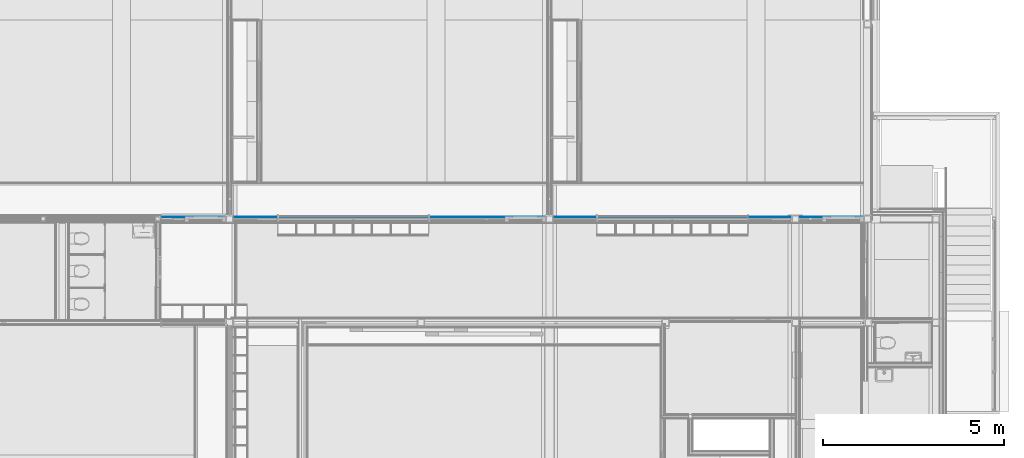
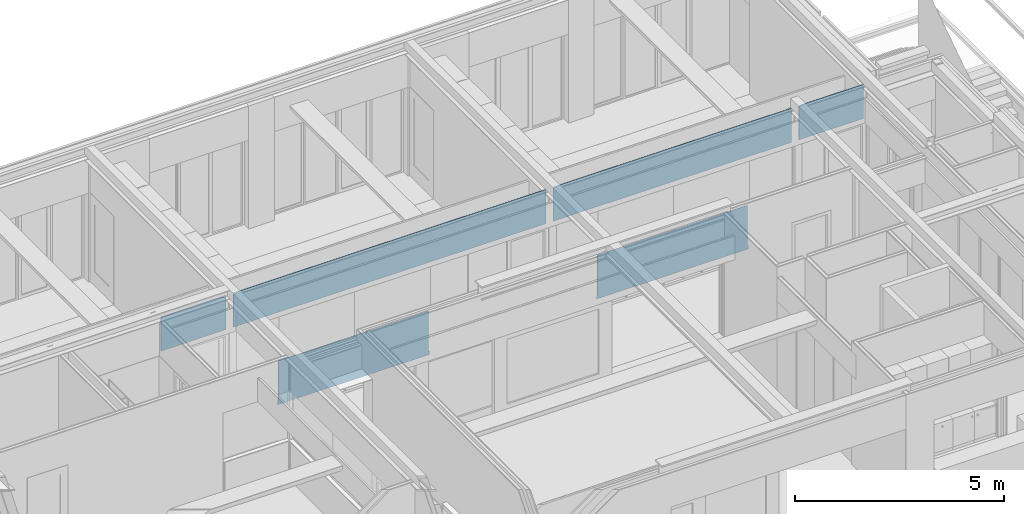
# One storey, part 31 of 165: 1 building element part, 14 openings, 1 element without a shape of its own.
"""IFC2X3 building model written with IfcOpenShell, lengths in millimetres."""

from ifc_helpers import new_model, entity, si_unit, converted_unit, derived_unit, money_unit, direction, frame, origin_with_axes, place, context, subcontext, project, spatial, faceted_brep, material, type_object, element, aggregate, save


model = new_model("IFC2X3")

# Units and contexts
model_context = context("Model", 3, precision=0.01, world=origin_with_axes(), true_north=direction((0.0, 1.0)))
body_context = subcontext(model_context, "Body", "Model", "MODEL_VIEW")
ifc_project = project(units=[si_unit("LENGTHUNIT", "METRE", prefix="MILLI"), si_unit("AREAUNIT", "SQUARE_METRE"), si_unit("VOLUMEUNIT", "CUBIC_METRE"), converted_unit("PLANEANGLEUNIT", "DEGREE", entity("IfcPlaneAngleMeasure", 0.0174532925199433), si_unit("PLANEANGLEUNIT", "RADIAN"), dimensions=[0, 0, 0, 0, 0, 0, 0]), money_unit("EUR"), converted_unit("TIMEUNIT", "Year", entity("IfcTimeMeasure", 31556926.0), si_unit("TIMEUNIT", "SECOND"), dimensions=[0, 0, 1, 0, 0, 0, 0]), si_unit("MASSUNIT", "GRAM", prefix="KILO"), si_unit("THERMODYNAMICTEMPERATUREUNIT", "DEGREE_CELSIUS"), si_unit("LUMINOUSINTENSITYUNIT", "LUMEN"), si_unit("ENERGYUNIT", "JOULE", prefix="MEGA"), derived_unit("THERMALCONDUCTANCEUNIT", [(si_unit("POWERUNIT", "WATT"), 1), (si_unit("LENGTHUNIT", "METRE"), -1), (si_unit("THERMODYNAMICTEMPERATUREUNIT", "KELVIN"), -1)]), derived_unit("SPECIFICHEATCAPACITYUNIT", [(si_unit("ENERGYUNIT", "JOULE"), 1), (si_unit("MASSUNIT", "GRAM", prefix="KILO"), -1), (si_unit("THERMODYNAMICTEMPERATUREUNIT", "KELVIN"), -1)]), derived_unit("MASSDENSITYUNIT", [(si_unit("MASSUNIT", "GRAM", prefix="KILO"), 1), (si_unit("VOLUMEUNIT", "CUBIC_METRE"), -1)])], contexts=[model_context])

# Site, building, storey
site_placement = place(None, origin_with_axes())
site = spatial("IfcSite", under=ifc_project, at=site_placement, Name="Site", CompositionType="ELEMENT")
building_placement = place(site_placement, origin_with_axes())
building = spatial("IfcBuilding", under=site, at=building_placement, Name="Naam gebouw", CompositionType="ELEMENT")
storey_placement = place(building_placement, origin_with_axes())
storey = spatial("IfcBuildingStorey", under=building, at=storey_placement, Name="Begane grond", CompositionType="ELEMENT", Elevation=0.0)

# Proxy, openings, building element part
building_element_proxy_type = type_object("IfcBuildingElementProxyType", Name="22 Metal stud 125 gips 125", PredefinedType="NOTDEFINED")
proxy_placement = place(storey_placement, frame((6940.0, 22324.99474661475, -100.0), z_axis=(0.0, 0.0, 1.0), x_axis=(0.9999999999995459, -9.530261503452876e-07, 0.0)))
proxy = element("IfcBuildingElementProxy", 1, at=proxy_placement, inside=storey, type_object=building_element_proxy_type, Name="_Wand-x")
opening_1_placement = place(proxy_placement, frame((11459.99904000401, 0.0, 100.0), z_axis=(0.0, 0.0, 1.0), x_axis=(1.0, 0.0, 0.0)))
element("IfcOpeningElement", 2, at=opening_1_placement, cuts=proxy, Name="_B.01", context=body_context, shape_type="Brep", body=[
    faceted_brep([(600.0000000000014, -12.50000000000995, -100.0000000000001), (600.0000000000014, -12.50000000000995, 2600.0), (600.0000000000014, -63.51853254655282, 2600.0), (600.0000000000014, -63.51853254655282, -100.0000000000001), (600.0000000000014, 63.51853254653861, -100.0000000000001), (600.0000000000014, 63.51853254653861, 2600.0), (-599.9999999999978, -12.50000000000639, 2600.0), (-599.9999999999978, -63.51853254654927, 2600.0), (-600.0000000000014, 63.51853254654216, 2600.0), (-599.9999999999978, -63.51853254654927, -100.0000000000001), (-599.9999999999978, -12.50000000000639, -100.0000000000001), (-600.0000000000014, 63.51853254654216, -100.0000000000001)], [[[0, 1, 2, 3]], [[1, 0, 4, 5]], [[6, 7, 2, 1, 5, 8]], [[7, 9, 3, 2]], [[0, 3, 9, 10, 11, 4]], [[5, 4, 11, 8]], [[6, 10, 9, 7]], [[10, 6, 8, 11]]]),
])
opening_2_placement = place(proxy_placement, frame((7954.999824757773, 0.0, 100.0), z_axis=(0.0, 0.0, 1.0), x_axis=(1.0, 0.0, 0.0)))
element("IfcOpeningElement", 3, at=opening_2_placement, cuts=proxy, Name="_B.06", context=body_context, shape_type="Brep", body=[
    faceted_brep([(524.9998247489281, -12.50000000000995, -100.0000000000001), (524.9998247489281, -12.50000000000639, 2600.0), (524.9998247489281, -63.51853254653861, 2600.0), (524.9998247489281, -63.51853254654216, -100.0000000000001), (524.9998247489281, 63.5185325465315, -100.0000000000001), (524.9998247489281, 63.51853254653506, 2600.0), (-524.9998247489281, -12.50000000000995, 2600.0), (-524.9998247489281, -63.51853254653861, 2600.0), (-524.9998247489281, 63.51853254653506, 2600.0), (-524.9998247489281, -63.51853254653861, -100.0000000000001), (-524.9998247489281, -12.50000000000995, -100.0000000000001), (-524.9998247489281, 63.51853254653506, -100.0000000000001)], [[[0, 1, 2, 3]], [[1, 0, 4, 5]], [[6, 7, 2, 1, 5, 8]], [[7, 9, 3, 2]], [[0, 3, 9, 10, 11, 4]], [[5, 4, 11, 8]], [[6, 10, 9, 7]], [[10, 6, 8, 11]]]),
])
opening_3_placement = place(proxy_placement, frame((16859.99904000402, 0.0, 100.0), z_axis=(0.0, 0.0, 1.0), x_axis=(1.0, 0.0, 0.0)))
element("IfcOpeningElement", 4, at=opening_3_placement, cuts=proxy, Name="_B.01", context=body_context, shape_type="Brep", body=[
    faceted_brep([(599.9999999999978, -12.50000000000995, -100.0000000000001), (599.9999999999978, -12.50000000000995, 2600.0), (599.9999999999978, -63.51853254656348, 2600.0), (599.9999999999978, -63.51853254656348, -100.0000000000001), (599.9999999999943, 63.5185325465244, -100.0000000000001), (599.9999999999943, 63.5185325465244, 2600.0), (-600.0000000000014, -12.50000000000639, 2600.0), (-600.0000000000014, -63.51853254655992, 2600.0), (-600.0000000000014, 63.51853254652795, 2600.0), (-600.0000000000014, -63.51853254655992, -100.0000000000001), (-600.0000000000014, -12.50000000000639, -100.0000000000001), (-600.0000000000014, 63.51853254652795, -100.0000000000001)], [[[0, 1, 2, 3]], [[1, 0, 4, 5]], [[6, 7, 2, 1, 5, 8]], [[7, 9, 3, 2]], [[0, 3, 9, 10, 11, 4]], [[5, 4, 11, 8]], [[6, 10, 9, 7]], [[10, 6, 8, 11]]]),
])
opening_4_placement = place(proxy_placement, frame((13109.999040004, 0.0, 1300.0), z_axis=(0.0, 0.0, 1.0), x_axis=(1.0, 0.0, 0.0)))
element("IfcOpeningElement", 5, at=opening_4_placement, cuts=proxy, Name="_C.01", context=body_context, shape_type="Brep", body=[
    faceted_brep([(1049.999999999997, -12.50000000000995, 0.0), (1049.999999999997, -12.50000000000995, 1400.0), (1049.999999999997, -63.51853254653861, 1400.0), (1049.999999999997, -63.51853254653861, 0.0), (1049.999999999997, 63.51853254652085, 0.0), (1049.999999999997, 63.51853254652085, 1400.0), (-1049.99999999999, -12.50000000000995, 1400.0), (-1049.999999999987, -63.51853254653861, 1400.0), (-1049.99999999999, 63.5185325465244, 1400.0), (-1049.999999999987, -63.51853254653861, 0.0), (-1049.99999999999, -12.50000000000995, 0.0), (-1049.99999999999, 63.5185325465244, 0.0)], [[[0, 1, 2, 3]], [[1, 0, 4, 5]], [[6, 7, 2, 1, 5, 8]], [[7, 9, 3, 2]], [[0, 3, 9, 10, 11, 4]], [[5, 4, 11, 8]], [[6, 10, 9, 7]], [[10, 6, 8, 11]]]),
])
opening_5_placement = place(proxy_placement, frame((15209.99904000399, 0.0, 1300.000000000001), z_axis=(0.0, 0.0, 1.0), x_axis=(1.0, 0.0, 0.0)))
element("IfcOpeningElement", 6, at=opening_5_placement, cuts=proxy, Name="_C.01", context=body_context, shape_type="Brep", body=[
    faceted_brep([(1050.000000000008, -12.5000000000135, 0.0), (1050.000000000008, -12.5000000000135, 1400.0), (1050.000000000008, -63.51853254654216, 1400.0), (1050.000000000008, -63.51853254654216, 0.0), (1050.000000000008, 63.51853254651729, 0.0), (1050.000000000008, 63.51853254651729, 1400.0), (-1050.000000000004, -12.50000000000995, 1400.0), (-1050.000000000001, -63.51853254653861, 1400.0), (-1050.000000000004, 63.51853254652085, 1400.0), (-1050.000000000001, -63.51853254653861, 0.0), (-1050.000000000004, -12.50000000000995, 0.0), (-1050.000000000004, 63.51853254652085, 0.0)], [[[0, 1, 2, 3]], [[1, 0, 4, 5]], [[6, 7, 2, 1, 5, 8]], [[7, 9, 3, 2]], [[0, 3, 9, 10, 11, 4]], [[5, 4, 11, 8]], [[6, 10, 9, 7]], [[10, 6, 8, 11]]]),
])
opening_6_placement = place(proxy_placement, frame((2620.000000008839, 0.0, 100.0), z_axis=(0.0, 0.0, 1.0), x_axis=(1.0, 0.0, 0.0)))
element("IfcOpeningElement", 7, at=opening_6_placement, cuts=proxy, Name="_B.03", context=body_context, shape_type="Brep", body=[
    faceted_brep([(610.0000000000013, -12.50000000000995, -100.0000000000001), (610.0000000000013, -12.50000000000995, 2600.0), (610.0000000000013, -63.51853254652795, 2600.0), (610.0000000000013, -63.51853254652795, -100.0000000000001), (610.0000000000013, 63.51853254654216, -100.0000000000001), (610.0000000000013, 63.51853254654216, 2600.0), (-610.0000000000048, -12.50000000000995, 2600.0), (-610.0000000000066, -63.51853254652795, 2600.0), (-610.0000000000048, 63.51853254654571, 2600.0), (-610.0000000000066, -63.51853254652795, -100.0000000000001), (-610.0000000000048, -12.50000000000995, -100.0000000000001), (-610.0000000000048, 63.51853254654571, -100.0000000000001)], [[[0, 1, 2, 3]], [[1, 0, 4, 5]], [[6, 7, 2, 1, 5, 8]], [[7, 9, 3, 2]], [[0, 3, 9, 10, 11, 4]], [[5, 4, 11, 8]], [[6, 10, 9, 7]], [[10, 6, 8, 11]]]),
])
opening_7_placement = place(proxy_placement, frame((4280.000000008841, 0.0, 1300.0), z_axis=(0.0, 0.0, 1.0), x_axis=(1.0, 0.0, 0.0)))
element("IfcOpeningElement", 8, at=opening_7_placement, cuts=proxy, Name="_C.01", context=body_context, shape_type="Brep", body=[
    faceted_brep([(1049.999999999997, -12.50000000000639, 0.0), (1049.999999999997, -12.50000000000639, 1400.0), (1049.999999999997, -63.5185325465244, 1400.0), (1049.999999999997, -63.5185325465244, 0.0), (1049.999999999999, 63.51853254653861, 0.0), (1049.999999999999, 63.51853254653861, 1400.0), (-1049.999999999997, -12.50000000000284, 1400.0), (-1049.999999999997, -63.51853254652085, 1400.0), (-1049.999999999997, 63.51853254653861, 1400.0), (-1049.999999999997, -63.51853254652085, 0.0), (-1049.999999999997, -12.50000000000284, 0.0), (-1049.999999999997, 63.51853254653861, 0.0)], [[[0, 1, 2, 3]], [[1, 0, 4, 5]], [[6, 7, 2, 1, 5, 8]], [[7, 9, 3, 2]], [[0, 3, 9, 10, 11, 4]], [[5, 4, 11, 8]], [[6, 10, 9, 7]], [[10, 6, 8, 11]]]),
])
opening_8_placement = place(proxy_placement, frame((9004.999474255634, 0.0, 100.0), z_axis=(0.0, 0.0, 1.0), x_axis=(1.0, 0.0, 0.0)))
element("IfcOpeningElement", 9, at=opening_8_placement, cuts=proxy, Name="_B.06", context=body_context, shape_type="Brep", body=[
    faceted_brep([(524.9998247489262, -12.50000000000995, -100.0000000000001), (524.9998247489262, -12.50000000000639, 2600.0), (524.9998247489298, -63.51853254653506, 2600.0), (524.9998247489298, -63.51853254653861, -100.0000000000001), (524.9998247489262, 63.51853254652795, -100.0000000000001), (524.9998247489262, 63.5185325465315, 2600.0), (-524.9998247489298, -12.50000000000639, 2600.0), (-524.9998247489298, -63.51853254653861, 2600.0), (-524.9998247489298, 63.5185325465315, 2600.0), (-524.9998247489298, -63.51853254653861, -100.0000000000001), (-524.9998247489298, -12.50000000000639, -100.0000000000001), (-524.9998247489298, 63.5185325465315, -100.0000000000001)], [[[0, 1, 2, 3]], [[1, 0, 4, 5]], [[6, 7, 2, 1, 5, 8]], [[7, 9, 3, 2]], [[0, 3, 9, 10, 11, 4]], [[5, 4, 11, 8]], [[6, 10, 9, 7]], [[10, 6, 8, 11]]]),
])
opening_9_placement = place(proxy_placement, frame((17987.99955956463, 0.0, 100.0), z_axis=(0.0, 0.0, 1.0), x_axis=(1.0, 0.0, 0.0)))
element("IfcOpeningElement", 10, at=opening_9_placement, cuts=proxy, Name="_B.09", context=body_context, shape_type="Brep", body=[
    faceted_brep([(-328.0004950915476, 12.49999999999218, -100.0000000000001), (-328.0004950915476, 12.49999999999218, 2600.0), (-328.0004950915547, 63.51853254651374, 2600.0), (-328.0004950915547, 63.51853254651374, -100.0000000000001), (-328.0004950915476, -63.51853254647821, -100.0000000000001), (-328.0004950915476, -63.51853254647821, 2600.0), (328.0004950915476, 12.49999999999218, 2600.0), (328.0004950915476, 63.51853254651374, 2600.0), (328.0004950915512, -63.51853254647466, 2600.0), (328.0004950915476, 63.51853254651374, -100.0000000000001), (328.0004950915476, 12.49999999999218, -100.0000000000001), (328.0004950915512, -63.51853254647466, -100.0000000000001)], [[[0, 1, 2, 3]], [[1, 0, 4, 5]], [[6, 7, 2, 1, 5, 8]], [[7, 9, 3, 2]], [[0, 3, 9, 10, 11, 4]], [[5, 4, 11, 8]], [[6, 10, 9, 7]], [[10, 6, 8, 11]]]),
])
opening_10_placement = place(proxy_placement, frame((18881.00000000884, 0.0, 100.0), z_axis=(0.0, 0.0, 1.0), x_axis=(1.0, 0.0, 0.0)))
element("IfcOpeningElement", 11, at=opening_10_placement, cuts=proxy, Name="_01.01", context=body_context, shape_type="Brep", body=[
    faceted_brep([(-564.9999999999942, -63.51853254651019, 2600.0), (-564.9999999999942, -63.51853254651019, -100.0000000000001), (565.0000000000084, -63.51853254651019, -100.0000000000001), (565.0000000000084, -63.51853254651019, 2600.0), (-564.9999999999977, 63.51853254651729, 2600.0), (-564.9999999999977, 63.51853254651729, -100.0000000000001), (565.0000000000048, 63.51853254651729, -100.0000000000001), (565.0000000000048, 63.51853254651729, 2600.0)], [[[0, 1, 2, 3]], [[4, 5, 1, 0]], [[5, 6, 2, 1]], [[6, 7, 3, 2]], [[7, 4, 0, 3]], [[6, 5, 4, 7]]]),
])
opening_11_placement = place(proxy_placement, frame((10094.99953887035, 0.0, 100.0), z_axis=(0.0, 0.0, 1.0), x_axis=(1.0, 0.0, 0.0)))
element("IfcOpeningElement", 12, at=opening_11_placement, cuts=proxy, Name="_01.01", context=body_context, shape_type="Brep", body=[
    faceted_brep([(-564.9999999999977, -63.51853254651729, 2600.0), (-564.9999999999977, -63.51853254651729, -100.0000000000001), (565.0000000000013, -63.51853254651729, -100.0000000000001), (565.0000000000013, -63.51853254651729, 2600.0), (-565.0000000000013, 63.51853254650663, 2600.0), (-565.0000000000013, 63.51853254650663, -100.0000000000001), (565.0000000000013, 63.51853254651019, -100.0000000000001), (565.0000000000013, 63.51853254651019, 2600.0)], [[[0, 1, 2, 3]], [[4, 5, 1, 0]], [[5, 6, 2, 1]], [[6, 7, 3, 2]], [[7, 4, 0, 3]], [[6, 5, 4, 7]]]),
])
opening_12_placement = place(proxy_placement, frame((6380.000000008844, 0.0, 1300.0), z_axis=(0.0, 0.0, 1.0), x_axis=(1.0, 0.0, 0.0)))
element("IfcOpeningElement", 13, at=opening_12_placement, cuts=proxy, Name="_C.01", context=body_context, shape_type="Brep", body=[
    faceted_brep([(1050.000000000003, -12.50000000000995, 0.0), (1050.000000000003, -12.50000000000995, 1400.0), (1050.000000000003, -63.51853254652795, 1400.0), (1050.000000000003, -63.51853254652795, 0.0), (1050.000000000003, 63.51853254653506, 0.0), (1050.000000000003, 63.51853254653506, 1400.0), (-1050.000000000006, -12.50000000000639, 1400.0), (-1050.000000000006, -63.5185325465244, 1400.0), (-1050.000000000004, 63.51853254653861, 1400.0), (-1050.000000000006, -63.5185325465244, 0.0), (-1050.000000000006, -12.50000000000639, 0.0), (-1050.000000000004, 63.51853254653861, 0.0)], [[[0, 1, 2, 3]], [[1, 0, 4, 5]], [[6, 7, 2, 1, 5, 8]], [[7, 9, 3, 2]], [[0, 3, 9, 10, 11, 4]], [[5, 4, 11, 8]], [[6, 10, 9, 7]], [[10, 6, 8, 11]]]),
])
opening_13_placement = place(proxy_placement, frame((1245.000071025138, 0.0, 100.0), z_axis=(0.0, 0.0, 1.0), x_axis=(1.0, 0.0, 0.0)))
element("IfcOpeningElement", 14, at=opening_13_placement, cuts=proxy, Name="_01.01", context=body_context, shape_type="Brep", body=[
    faceted_brep([(-565.0000000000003, -63.51853254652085, 2600.0), (-565.0000000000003, -63.51853254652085, -100.0000000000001), (564.9999999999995, -63.51853254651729, -100.0000000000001), (564.9999999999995, -63.51853254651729, 2600.0), (-565.0000000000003, 63.51853254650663, 2600.0), (-565.0000000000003, 63.51853254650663, -100.0000000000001), (564.9999999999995, 63.51853254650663, -100.0000000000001), (564.9999999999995, 63.51853254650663, 2600.0)], [[[0, 1, 2, 3]], [[4, 5, 1, 0]], [[5, 6, 2, 1]], [[6, 7, 3, 2]], [[7, 4, 0, 3]], [[6, 5, 4, 7]]]),
])
opening_14_placement = place(proxy_placement, frame((340.0001105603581, 0.0, 100.0), z_axis=(0.0, 0.0, 1.0), x_axis=(1.0, 0.0, 0.0)))
element("IfcOpeningElement", 15, at=opening_14_placement, cuts=proxy, Name="_B.07", context=body_context, shape_type="Brep", body=[
    faceted_brep([(-339.9999604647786, 12.49999999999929, -100.0000000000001), (-339.9999604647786, 12.49999999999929, 2600.0), (-339.9999604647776, 63.51853254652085, 2600.0), (-339.9999604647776, 63.51853254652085, -100.0000000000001), (-339.9999604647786, -63.51853254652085, -100.0000000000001), (-339.9999604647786, -63.51853254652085, 2600.0), (339.9999604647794, 12.49999999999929, 2600.0), (339.9999604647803, 63.51853254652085, 2600.0), (339.9999604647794, -63.5185325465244, 2600.0), (339.9999604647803, 63.51853254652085, -100.0000000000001), (339.9999604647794, 12.49999999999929, -100.0000000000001), (339.9999604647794, -63.5185325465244, -100.0000000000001)], [[[0, 1, 2, 3]], [[1, 0, 4, 5]], [[6, 7, 2, 1, 5, 8]], [[7, 9, 3, 2]], [[0, 3, 9, 10, 11, 4]], [[5, 4, 11, 8]], [[6, 10, 9, 7]], [[10, 6, 8, 11]]]),
])
ifc_material = material(Name="Gipsplaat")
building_element_part_placement = place(proxy_placement, origin_with_axes())
building_element_part = element("IfcBuildingElementPart", 16, at=building_element_part_placement, material=ifc_material, Name="Gipsplaat", context=body_context, shape_type="Brep", body=[
    faceted_brep([(7409.999940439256, 62.49999999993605, 1280.000000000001), (7409.999940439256, 62.49999999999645, 100.0), (7429.999940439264, 62.4999999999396, 100.0), (7430.000000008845, 62.49999999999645, 0.0), (3230.00000000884, 62.49999999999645, 0.0), (3229.999940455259, 62.50000000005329, 100.0), (3249.999940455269, 62.49999999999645, 100.0), (3249.999940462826, 62.49999999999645, 1280.000000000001), (7409.999952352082, 49.99999999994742, 1280.000000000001), (7409.999952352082, 49.99999999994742, 100.0), (7429.999952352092, 49.99999999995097, 100.0), (7430.000000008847, 49.99999999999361, 0.0), (3230.00000000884, 49.99999999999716, 0.0), (3229.999928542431, 50.00000000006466, 100.0), (3249.999928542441, 49.99999999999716, 100.0), (3249.999928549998, 49.99999999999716, 1280.000000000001)], [[[0, 1, 2, 3, 4, 5, 6, 7]], [[1, 0, 8, 9]], [[10, 2, 1, 9]], [[2, 10, 11, 3]], [[11, 12, 4, 3]], [[4, 12, 13, 5]], [[13, 14, 6, 5]], [[14, 15, 7, 6]], [[8, 0, 7, 15]], [[9, 8, 15, 14, 13, 12, 11, 10]]]),
    faceted_brep([(10659.99937692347, 49.99999999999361, 3675.000002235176), (10659.99953887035, 49.99999999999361, 2700.0), (10659.99953887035, 62.49999999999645, 2700.0), (10659.99936501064, 62.5, 3675.000002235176), (2010.000000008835, 49.99999999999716, 2700.0), (10559.99937692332, 49.99999999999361, 3675.000002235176), (10559.99937692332, 49.99999999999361, 3695.000002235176), (10656.99937692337, 49.99999999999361, 3695.000002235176), (10656.99937692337, 49.99999999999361, 3700.0), (2012.999952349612, 49.99999999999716, 3700.0), (2012.999952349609, 49.99999999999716, 3695.000002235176), (2109.999952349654, 49.99999999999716, 3695.000002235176), (2109.999952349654, 49.99999999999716, 3670.000002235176), (2009.999952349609, 50.00000000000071, 3670.000002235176), (2010.000000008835, 62.5, 2700.0), (2009.999940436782, 62.5, 3670.000002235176), (2109.999940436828, 62.5, 3670.000002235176), (2109.999940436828, 62.5, 3695.000002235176), (2012.999940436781, 62.50000000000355, 3695.000002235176), (2012.999940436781, 62.5, 3700.0), (10656.99936501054, 62.49999999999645, 3700.0), (10656.99936501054, 62.49999999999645, 3695.000002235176), (10559.99936501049, 62.49999999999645, 3695.000002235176), (10559.99936501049, 62.49999999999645, 3675.000002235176)], [[[0, 1, 2, 3]], [[4, 1, 0, 5, 6, 7, 8, 9, 10, 11, 12, 13]], [[14, 2, 1, 4]], [[3, 2, 14, 15, 16, 17, 18, 19, 20, 21, 22, 23]], [[3, 23, 5, 0]], [[23, 22, 6, 5]], [[22, 21, 7, 6]], [[21, 20, 8, 7]], [[8, 20, 19, 9]], [[9, 19, 18, 10]], [[18, 17, 11, 10]], [[17, 16, 12, 11]], [[13, 12, 16, 15]], [[15, 14, 4, 13]]]),
    faceted_brep([(12059.99904000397, 62.50000000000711, 100.0), (12079.99904000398, 62.50000000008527, 100.0), (12079.99904001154, 62.50000000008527, 1280.000000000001), (16239.999040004, 62.49999999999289, 1280.000000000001), (16239.999040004, 62.49999999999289, 100.0), (16259.99904000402, 62.49999999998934, 100.0), (16259.99904000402, 62.49999999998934, 0.0), (12059.99904000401, 62.49999999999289, 0.0), (12059.99902809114, 50.00000000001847, 100.0), (12079.99902809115, 49.99999999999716, 100.0), (12079.99902809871, 50.00000000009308, 1280.000000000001), (16239.99905191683, 49.99999999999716, 1280.000000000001), (16239.99905191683, 49.99999999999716, 100.0), (16259.99905191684, 50.00000000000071, 100.0), (16259.99904000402, 49.99999999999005, 0.0), (12059.99904000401, 49.99999999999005, 0.0)], [[[0, 1, 2, 3, 4, 5, 6, 7]], [[1, 0, 8, 9]], [[10, 2, 1, 9]], [[2, 10, 11, 3]], [[4, 3, 11, 12]], [[4, 12, 13, 5]], [[14, 6, 5, 13]], [[14, 15, 7, 6]], [[8, 0, 7, 15]], [[9, 8, 15, 14, 13, 12, 11, 10]]]),
    faceted_brep([(17459.99904000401, 49.99999999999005, 2700.0), (10859.99904000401, 49.99999999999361, 2700.0), (10859.99904000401, 62.49999999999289, 2700.0), (17459.99904000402, 62.49999999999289, 2700.0), (17459.9989923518, 49.99999999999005, 3680.000029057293), (17359.99899235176, 49.99999999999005, 3680.000029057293), (17359.99899235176, 49.99999999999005, 3695.000029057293), (17458.9989923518, 49.99999999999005, 3695.000029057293), (17458.9989923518, 49.99999999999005, 3700.0), (10862.99937692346, 49.99999999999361, 3700.0), (10862.99937692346, 49.99999999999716, 3695.000002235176), (10959.9993769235, 49.99999999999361, 3695.000002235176), (10959.9993769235, 49.99999999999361, 3675.000002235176), (10859.99937692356, 49.99999999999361, 3675.000002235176), (10859.99936501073, 62.49999999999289, 3675.000002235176), (10959.99936501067, 62.49999999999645, 3675.000002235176), (10959.99936501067, 62.49999999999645, 3695.000002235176), (10862.99936501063, 62.5, 3695.000002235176), (10862.99936501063, 62.49999999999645, 3700.0), (17458.99898043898, 62.49999999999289, 3700.0), (17458.99898043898, 62.49999999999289, 3695.000029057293), (17359.99898043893, 62.49999999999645, 3695.000029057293), (17359.99898043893, 62.49999999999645, 3680.000029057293), (17459.99898043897, 62.49999999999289, 3680.000029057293)], [[[0, 1, 2, 3]], [[1, 0, 4, 5, 6, 7, 8, 9, 10, 11, 12, 13]], [[1, 13, 14, 2]], [[3, 2, 14, 15, 16, 17, 18, 19, 20, 21, 22, 23]], [[23, 4, 0, 3]], [[5, 4, 23, 22]], [[6, 5, 22, 21]], [[7, 6, 21, 20]], [[8, 7, 20, 19]], [[8, 19, 18, 9]], [[17, 10, 9, 18]], [[11, 10, 17, 16]], [[12, 11, 16, 15]], [[15, 14, 13, 12]]]),
    faceted_brep([(1810.000071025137, 49.99999999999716, 2700.0), (1810.000071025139, 62.5, 2700.0), (1809.999940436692, 62.5, 3670.000002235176), (1809.999952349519, 49.99999999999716, 3670.000002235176), (680.0000710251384, 62.5, 2700.0), (680.0000710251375, 49.99999999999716, 2700.0), (0.000150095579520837, 49.99999999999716, 2700.0), (0.000150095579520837, 62.5, 2700.0), (0.0, 62.49999999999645, 3700.0), (1806.999940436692, 62.5, 3700.0), (1806.999940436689, 62.5, 3695.000002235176), (1709.999940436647, 62.5, 3695.000002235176), (1709.999940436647, 62.5, 3670.000002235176), (1709.999952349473, 50.00000000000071, 3670.000002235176), (1709.999952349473, 50.00000000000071, 3695.000002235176), (1806.999952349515, 49.99999999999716, 3695.000002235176), (1806.999952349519, 49.99999999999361, 3700.0), (0.0, 49.99999999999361, 3700.0)], [[[0, 1, 2, 3]], [[4, 1, 0, 5, 6, 7]], [[1, 4, 7, 8, 9, 10, 11, 12, 2]], [[12, 13, 3, 2]], [[5, 0, 3, 13, 14, 15, 16, 17, 6]], [[6, 17, 8, 7]], [[9, 8, 17, 16]], [[9, 16, 15, 10]], [[10, 15, 14, 11]], [[11, 14, 13, 12]]]),
    faceted_brep([(19446.00000000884, 49.99999999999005, 2700.0), (19446.00000000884, 62.49999999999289, 2700.0), (19446.00000000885, 62.49999999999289, 3393.0), (19446.00000000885, 49.99999999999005, 3393.0), (18316.00000000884, 62.49999999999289, 2700.0), (18316.00000000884, 49.99999999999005, 2700.0), (17659.99906447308, 49.99999999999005, 2700.0), (17659.99906447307, 62.49999999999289, 2700.0), (17659.99898043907, 62.49999999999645, 3680.000029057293), (17759.99898043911, 62.49999999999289, 3680.000029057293), (17759.99898043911, 62.49999999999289, 3695.000029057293), (17660.99898043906, 62.49999999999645, 3695.000029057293), (17660.99898043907, 62.49999999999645, 3700.0), (19446.00000000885, 62.49999999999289, 3700.0), (19446.00000000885, 62.49999999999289, 3695.0), (19360.99993597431, 62.49999999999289, 3695.0), (19360.99993597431, 62.49999999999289, 3683.0), (19446.00000000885, 62.49999999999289, 3683.0), (19446.00000000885, 62.49999999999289, 3405.0), (19443.9999404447, 62.49999999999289, 3405.0), (19443.9999404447, 62.49999999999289, 3393.0), (19443.99995235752, 49.99999999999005, 3393.0), (19443.99995235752, 49.99999999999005, 3405.0), (19446.00000000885, 49.99999999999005, 3405.0), (19446.00000000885, 49.99999999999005, 3683.0), (19360.99994788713, 49.99999999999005, 3683.0), (19360.99994788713, 49.99999999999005, 3695.0), (19446.00000000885, 49.99999999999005, 3695.0), (19446.00000000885, 49.99999999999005, 3700.0), (17660.9989923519, 49.99999999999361, 3700.0), (17660.99899235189, 49.99999999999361, 3695.000029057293), (17759.99899235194, 49.99999999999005, 3695.000029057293), (17759.99899235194, 49.99999999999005, 3680.000029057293), (17659.9989923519, 49.99999999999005, 3680.000029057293)], [[[0, 1, 2, 3]], [[4, 1, 0, 5, 6, 7]], [[1, 4, 7, 8, 9, 10, 11, 12, 13, 14, 15, 16, 17, 18, 19, 20, 2]], [[2, 20, 21, 3]], [[5, 0, 3, 21, 22, 23, 24, 25, 26, 27, 28, 29, 30, 31, 32, 33, 6]], [[6, 33, 8, 7]], [[32, 9, 8, 33]], [[9, 32, 31, 10]], [[10, 31, 30, 11]], [[12, 11, 30, 29]], [[29, 28, 13, 12]], [[14, 13, 28, 27]], [[14, 27, 26, 15]], [[15, 26, 25, 16]], [[17, 16, 25, 24]], [[24, 23, 18, 17]], [[18, 23, 22, 19]], [[19, 22, 21, 20]]]),
])
aggregate(proxy, [building_element_part])

save(model, "model.ifc")
